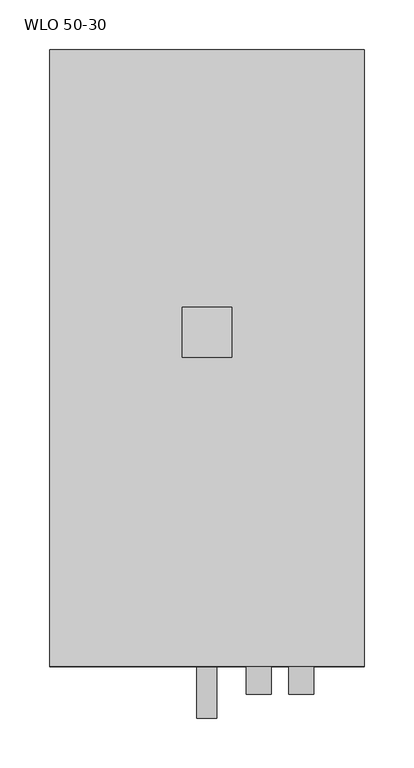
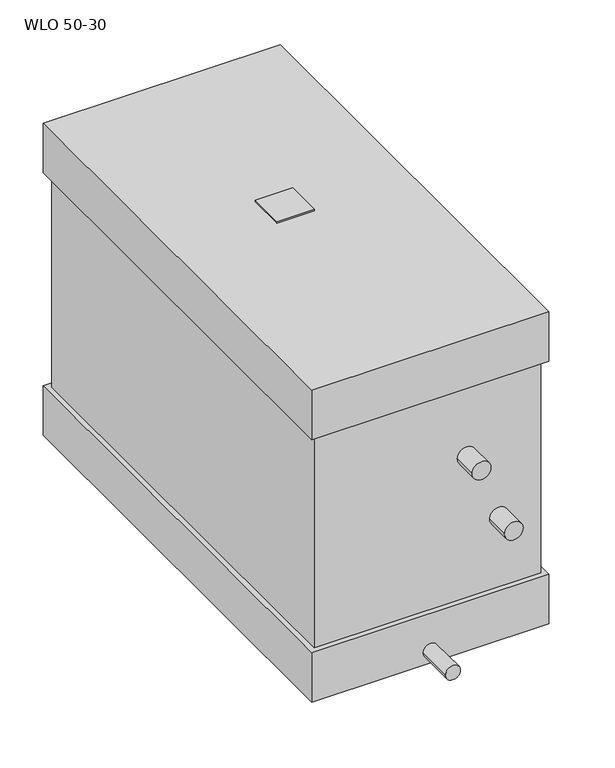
"""IFC4 building model written with IfcOpenShell, lengths in millimetres: proxy geometry, KORF_Воздухоохладитель_Водяной_WLO_Левый : WLO 50-30."""

from ifc_helpers import new_model, si_unit, point, frame, frame_2d, origin, place, context, project, spatial, polyline, circle_curve, trimmed, segment, composite_curve, outline, extrude, faceted_brep, source, transform, mapped, element, save


def wlo_50_30_7f3f5454(model_context):
    return source(origin(), model_context, "Body", "SolidModel", [
        extrude(outline(polyline([(133.0, -25.0), (133.0, 25.0), (183.0, 25.0), (183.0, -25.0), (133.0, -25.0)])), frame((0.0, 0.0, 220.0), z_axis=(0.0, 0.0, 1.0), x_axis=(1.0, 0.0, 0.0)), (0.0, 0.0, 1.0), 2.0),
        faceted_brep([(316.0, -336.0, 220.0), (316.0, -336.0, 150.0), (316.0, 284.0, 150.0), (316.0, 284.0, 220.0), (316.0, -336.0, -150.0), (316.0, -336.0, -220.0), (316.0, 284.0, -220.0), (316.0, 284.0, -150.0), (0.0, -336.0, 220.0), (0.0, 284.0, 220.0), (0.0, 284.0, 150.0), (0.0, -336.0, 150.0), (0.0, -336.0, -150.0), (0.0, 284.0, -150.0), (0.0, 284.0, -220.0), (0.0, -336.0, -220.0), (7.0, -329.0, 150.0), (309.0, -329.0, 150.0), (309.0, -250.0, 150.0), (309.0, 250.0, 150.0), (309.0, 277.0, 150.0), (7.0, 277.0, 150.0), (7.0, 250.0, 150.0), (7.0, -250.0, 150.0), (309.0, -329.0, -150.0), (7.0, -329.0, -150.0), (7.0, -250.0, -150.0), (7.0, 250.0, -150.0), (7.0, 277.0, -150.0), (309.0, 277.0, -150.0), (309.0, 250.0, -150.0), (309.0, -250.0, -150.0)], [[[0, 1, 2, 3]], [[4, 5, 6, 7]], [[8, 9, 10, 11]], [[12, 13, 14, 15]], [[1, 0, 8, 11]], [[2, 1, 11, 10], [16, 17, 18, 19, 20, 21, 22, 23]], [[3, 2, 10, 9]], [[0, 3, 9, 8]], [[5, 4, 12, 15]], [[6, 5, 15, 14]], [[7, 6, 14, 13]], [[4, 7, 13, 12], [24, 25, 26, 27, 28, 29, 30, 31]], [[17, 24, 31, 30, 29, 20, 19, 18]], [[21, 28, 27, 26, 25, 16, 23, 22]], [[24, 17, 16, 25]], [[20, 29, 28, 21]]]),
        extrude(outline(composite_curve([segment(trimmed(circle_curve(frame_2d((50.0, 210.0)), 12.5), [point((50.0, 197.5))], [point((50.0, 222.5))], False, "CARTESIAN"), True, "CONTINUOUS"), segment(trimmed(circle_curve(frame_2d((50.0, 210.0)), 12.5), [point((50.0, 222.5))], [point((50.0, 197.5))], False, "CARTESIAN"), True, "CONTINUOUS")], self_intersect=False)), frame((0.0, -364.0, 0.0), z_axis=(0.0, 1.0, 0.0), x_axis=(0.0, 0.0, 1.0)), (0.0, 0.0, 1.0), 35.0),
        extrude(outline(composite_curve([segment(trimmed(circle_curve(frame_2d((-50.0, 253.0)), 12.5), [point((-50.0, 240.5))], [point((-50.0, 265.5))], False, "CARTESIAN"), True, "CONTINUOUS"), segment(trimmed(circle_curve(frame_2d((-50.0, 253.0)), 12.5), [point((-50.0, 265.5))], [point((-50.0, 240.5))], False, "CARTESIAN"), True, "CONTINUOUS")], self_intersect=False)), frame((0.0, -364.0, 0.0), z_axis=(0.0, 1.0, 0.0), x_axis=(0.0, 0.0, 1.0)), (0.0, 0.0, 1.0), 35.0),
        extrude(outline(composite_curve([segment(trimmed(circle_curve(frame_2d((-202.0, 158.0)), 10.0), [point((-202.0, 148.0))], [point((-202.0, 168.0))], False, "CARTESIAN"), True, "CONTINUOUS"), segment(trimmed(circle_curve(frame_2d((-202.0, 158.0)), 10.0), [point((-202.0, 168.0))], [point((-202.0, 148.0))], False, "CARTESIAN"), True, "CONTINUOUS")], self_intersect=False)), frame((0.0, -388.0, 0.0), z_axis=(0.0, 1.0, 0.0), x_axis=(0.0, 0.0, 1.0)), (0.0, 0.0, 1.0), 52.0),
    ])


if __name__ == "__main__":
    model = new_model("IFC4")
    model_context = context("Model", 3, world=origin())
    ifc_project = project(units=[si_unit("LENGTHUNIT", "METRE", prefix="MILLI")], contexts=[model_context])
    site = spatial("IfcSite", under=ifc_project)
    building = spatial("IfcBuilding", under=site)
    placement = place(None, origin())
    wlo_50_30_shape = wlo_50_30_7f3f5454(model_context)
    element("IfcBuildingElementProxy", 1, Name="KORF_Воздухоохладитель_Водяной_WLO_Левый : WLO 50-30", ObjectType="KORF_Воздухоохладитель_Водяной_WLO_Левый : WLO 50-30", at=placement, inside=building, context=model_context, shape_type="MappedRepresentation", body=[
        mapped(wlo_50_30_shape, transform((0.0, 0.0, 0.0), x_axis=(1.0, 0.0, 0.0), y_axis=(0.0, 1.0, 0.0), z_axis=(0.0, 0.0, 1.0))),
    ])
    save(model, "model.ifc")
